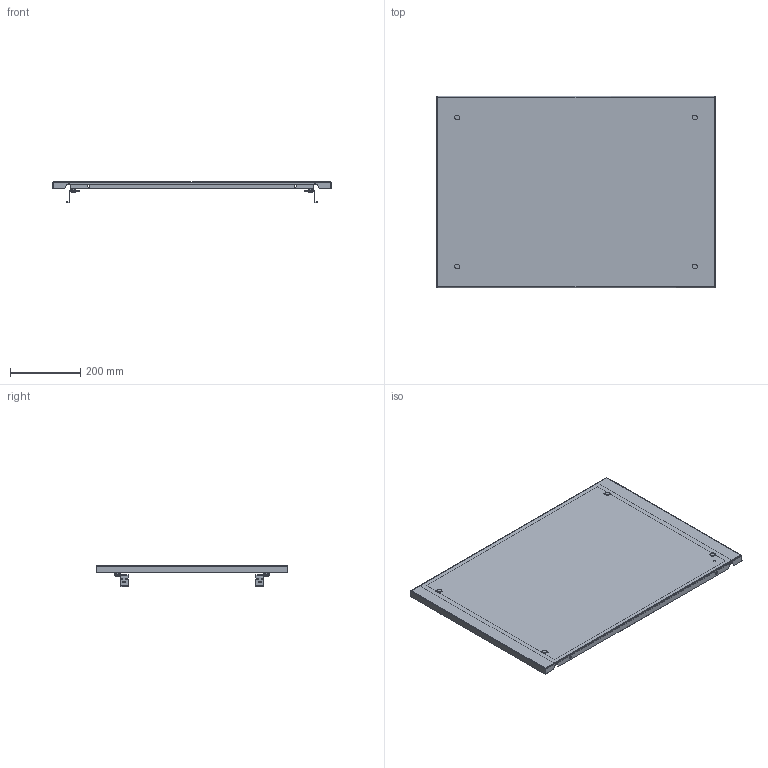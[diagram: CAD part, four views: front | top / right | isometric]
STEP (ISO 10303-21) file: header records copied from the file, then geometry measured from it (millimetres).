
FILE_DESCRIPTION(('CAx-IF Rec.Pracs.---Model Styling and Organization---1.2---2011-12-15','CAx-IF Rec.Pracs.---Geometric and Assembly Validation Properties---4.1---2014-06-16','CAx-IF Rec.Pracs.---PMI Polyline Presentation---2.0---2013-05-24'),'2;1');
FILE_NAME('R5CPFEM8550.stp','2021-05-06T03:40:47+03:00',(''),(''),'STEP Interface 4.4 by CT CoreTechnologie','3D_Evolution4.4 by CT CoreTechnologie','');
FILE_SCHEMA(('AUTOMOTIVE_DESIGN { 1 0 10303 214 1 1 1 1 }'));
Length unit declared in the file: millimetre
Products named in the file (11): R5CPFEM8550; AC00C172_AC00C172; A1100001; M6x16-DIN 7985 ISR_thread; RB.0901.00.00.0 ÑÁ_-06; RB.0901.00.01.0_-06; Ì6õ12-A5100231_straight; PF 7x14 R5CPFEM_0550x0800; AC00C061_AC00C061; RB.0544.00.00.1_-01; RB.0544.00.00.1_-00
Assembly tree (21 placements, depth 3):
  R5CPFEM8550
    AC00C172_AC00C172  x4
    A1100001  x4
    M6x16-DIN 7985 ISR_thread  x4
    RB.0901.00.00.0 ÑÁ_-06
      RB.0901.00.01.0_-06
      Ì6õ12-A5100231_straight
      PF 7x14 R5CPFEM_0550x0800
      AC00C061_AC00C061
    RB.0544.00.00.1_-01  x2
    RB.0544.00.00.1_-00  x2
Bounding box: 794 x 545 x 61 mm (x, y, z)
Surface area: 1076285.4 mm2 (no closed solid volume)
Topology: 0 solids, 30 shells, 490 faces, 1267 edges, 841 vertices
Faces by surface type: plane 326, cylinder 128, bspline 36
Entity records: 9200 total; most frequent: CARTESIAN_POINT 2112, ORIENTED_EDGE 1342, DIRECTION 1316, EDGE_CURVE 671, VECTOR 494, LINE 494, VERTEX_POINT 445, AXIS2_PLACEMENT_3D 411
